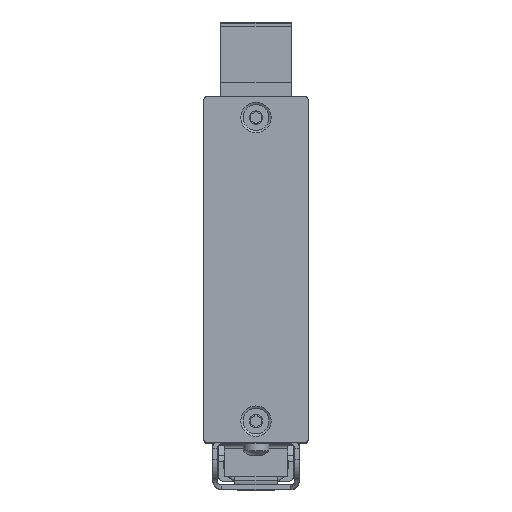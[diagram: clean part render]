
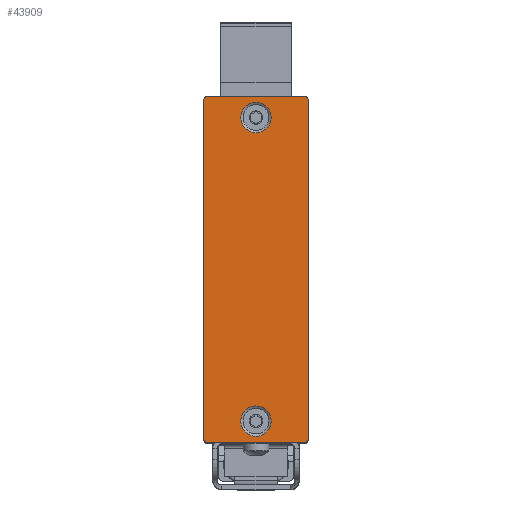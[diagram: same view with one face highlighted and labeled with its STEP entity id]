
A CAD part, top view. The second image highlights one B-rep face of the part: STEP entity #43909.
In plain terms, the highlighted planar face has unit normal (0, 0, 1).
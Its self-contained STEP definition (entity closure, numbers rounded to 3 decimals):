
#43516=CARTESIAN_POINT('',(-10.25,37.05,72.5));
#43517=VERTEX_POINT('',#43516);
#43524=CARTESIAN_POINT('',(10.25,37.05,72.5));
#43525=VERTEX_POINT('',#43524);
#43526=CARTESIAN_POINT('',(10.25,37.05,72.5));
#43527=DIRECTION('',(-1.,0.,0.));
#43528=VECTOR('',#43527,20.5);
#43529=LINE('',#43526,#43528);
#43530=EDGE_CURVE('',#43525,#43517,#43529,.T.);
#43547=CARTESIAN_POINT('',(-11.25,36.05,72.5));
#43548=VERTEX_POINT('',#43547);
#43549=CARTESIAN_POINT('',(-11.25,-36.15,72.5));
#43550=VERTEX_POINT('',#43549);
#43551=CARTESIAN_POINT('',(-11.25,36.05,72.5));
#43552=DIRECTION('',(0.,-1.,0.));
#43553=VECTOR('',#43552,72.2);
#43554=LINE('',#43551,#43553);
#43555=EDGE_CURVE('',#43548,#43550,#43554,.T.);
#43588=CARTESIAN_POINT('',(-10.25,-37.15,72.5));
#43589=VERTEX_POINT('',#43588);
#43590=CARTESIAN_POINT('',(10.25,-37.15,72.5));
#43591=VERTEX_POINT('',#43590);
#43592=CARTESIAN_POINT('',(-10.25,-37.15,72.5));
#43593=DIRECTION('',(1.,0.,-0.));
#43594=VECTOR('',#43593,20.5);
#43595=LINE('',#43592,#43594);
#43596=EDGE_CURVE('',#43589,#43591,#43595,.T.);
#43639=CARTESIAN_POINT('',(11.25,36.05,72.5));
#43640=VERTEX_POINT('',#43639);
#43647=CARTESIAN_POINT('',(11.25,-36.15,72.5));
#43648=VERTEX_POINT('',#43647);
#43649=CARTESIAN_POINT('',(11.25,-36.15,72.5));
#43650=DIRECTION('',(-0.,1.,0.));
#43651=VECTOR('',#43650,72.2);
#43652=LINE('',#43649,#43651);
#43653=EDGE_CURVE('',#43648,#43640,#43652,.T.);
#43848=CARTESIAN_POINT('',(0.,-0.05,72.5));
#43849=DIRECTION('',(0.,0.,1.));
#43850=DIRECTION('',(-1.,0.,0.));
#43851=AXIS2_PLACEMENT_3D('',#43848,#43849,#43850);
#43852=PLANE('',#43851);
#43853=CARTESIAN_POINT('',(0.,-35.8,72.5));
#43854=VERTEX_POINT('',#43853);
#43855=CARTESIAN_POINT('',(0.,-32.55,72.5));
#43856=DIRECTION('',(0.,0.,-1.));
#43857=DIRECTION('',(0.,-1.,0.));
#43858=AXIS2_PLACEMENT_3D('',#43855,#43856,#43857);
#43859=CIRCLE('',#43858,3.25);
#43860=EDGE_CURVE('',#43854,#43854,#43859,.T.);
#43861=ORIENTED_EDGE('',*,*,#43860,.T.);
#43862=EDGE_LOOP('',(#43861));
#43863=FACE_BOUND('',#43862,.T.);
#43864=CARTESIAN_POINT('',(0.,29.2,72.5));
#43865=VERTEX_POINT('',#43864);
#43866=CARTESIAN_POINT('',(0.,32.45,72.5));
#43867=DIRECTION('',(0.,0.,-1.));
#43868=DIRECTION('',(0.,-1.,0.));
#43869=AXIS2_PLACEMENT_3D('',#43866,#43867,#43868);
#43870=CIRCLE('',#43869,3.25);
#43871=EDGE_CURVE('',#43865,#43865,#43870,.T.);
#43872=ORIENTED_EDGE('',*,*,#43871,.T.);
#43873=EDGE_LOOP('',(#43872));
#43874=FACE_BOUND('',#43873,.T.);
#43875=ORIENTED_EDGE('',*,*,#43530,.T.);
#43876=CARTESIAN_POINT('',(-10.25,36.05,72.5));
#43877=DIRECTION('',(0.,0.,1.));
#43878=DIRECTION('',(1.,0.,-0.));
#43879=AXIS2_PLACEMENT_3D('',#43876,#43877,#43878);
#43880=CIRCLE('',#43879,1.);
#43881=EDGE_CURVE('',#43517,#43548,#43880,.T.);
#43882=ORIENTED_EDGE('',*,*,#43881,.T.);
#43883=ORIENTED_EDGE('',*,*,#43555,.T.);
#43884=CARTESIAN_POINT('',(-10.25,-36.15,72.5));
#43885=DIRECTION('',(0.,0.,1.));
#43886=DIRECTION('',(1.,0.,-0.));
#43887=AXIS2_PLACEMENT_3D('',#43884,#43885,#43886);
#43888=CIRCLE('',#43887,1.);
#43889=EDGE_CURVE('',#43550,#43589,#43888,.T.);
#43890=ORIENTED_EDGE('',*,*,#43889,.T.);
#43891=ORIENTED_EDGE('',*,*,#43596,.T.);
#43892=CARTESIAN_POINT('',(10.25,-36.15,72.5));
#43893=DIRECTION('',(0.,0.,1.));
#43894=DIRECTION('',(1.,0.,-0.));
#43895=AXIS2_PLACEMENT_3D('',#43892,#43893,#43894);
#43896=CIRCLE('',#43895,1.);
#43897=EDGE_CURVE('',#43591,#43648,#43896,.T.);
#43898=ORIENTED_EDGE('',*,*,#43897,.T.);
#43899=ORIENTED_EDGE('',*,*,#43653,.T.);
#43900=CARTESIAN_POINT('',(10.25,36.05,72.5));
#43901=DIRECTION('',(0.,0.,1.));
#43902=DIRECTION('',(1.,0.,-0.));
#43903=AXIS2_PLACEMENT_3D('',#43900,#43901,#43902);
#43904=CIRCLE('',#43903,1.);
#43905=EDGE_CURVE('',#43640,#43525,#43904,.T.);
#43906=ORIENTED_EDGE('',*,*,#43905,.T.);
#43907=EDGE_LOOP('',(#43875,#43882,#43883,#43890,#43891,#43898,#43899,#43906));
#43908=FACE_BOUND('',#43907,.T.);
#43909=ADVANCED_FACE('',(#43863,#43874,#43908),#43852,.T.);
